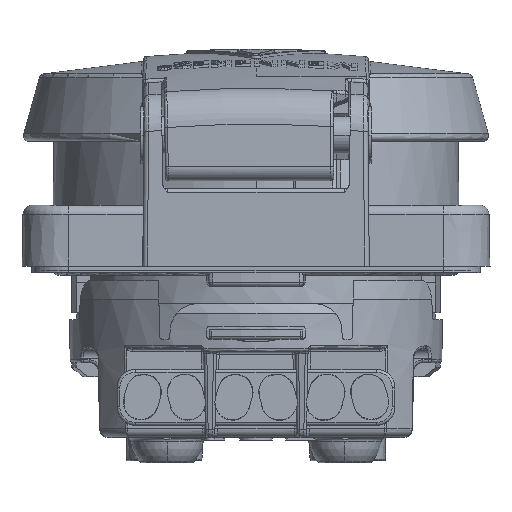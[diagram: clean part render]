
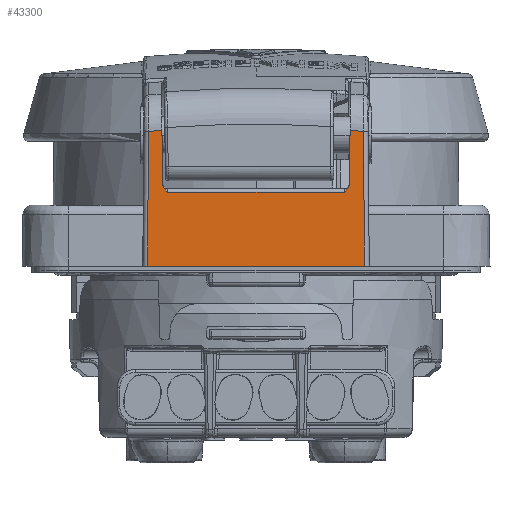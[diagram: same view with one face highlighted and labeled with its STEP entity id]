
A CAD part, left-side view. The second image highlights one B-rep face of the part: STEP entity #43300.
In plain terms, the highlighted planar face has unit normal (-1, 0, 0).
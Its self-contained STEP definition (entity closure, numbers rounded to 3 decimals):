
#1751=DIRECTION('',(0.,-1.,0.));
#1752=VECTOR('',#1751,23.2);
#1753=CARTESIAN_POINT('',(-36.,11.6,1.8));
#1754=LINE('5375',#1753,#1752);
#1978=CARTESIAN_POINT('',(-36.,9.951,10.47));
#1989=DIRECTION('',(0.,-0.017,-1.));
#1990=VECTOR('',#1989,5.83);
#1991=CARTESIAN_POINT('',(-36.,10.053,16.299));
#1992=LINE('5553',#1991,#1990);
#2143=CARTESIAN_POINT('',(-36.,-9.951,
10.47));
#2206=DIRECTION('',(0.,0.017,-1.));
#2207=VECTOR('',#2206,5.83);
#2208=CARTESIAN_POINT('',(-36.,-10.053,16.299));
#2209=LINE('5552',#2208,#2207);
#2255=CARTESIAN_POINT('',(-36.,-9.951,
10.47));
#2256=CARTESIAN_POINT('',(-36.,-9.95,
10.419));
#2257=CARTESIAN_POINT('',(-36.,-9.937,
10.317));
#2258=CARTESIAN_POINT('',(-36.,-9.875,
10.153));
#2259=CARTESIAN_POINT('',(-36.,-9.768,
9.989));
#2260=CARTESIAN_POINT('',(-36.,-9.619,
9.83));
#2261=CARTESIAN_POINT('',(-36.,-9.5,
9.726));
#2262=CARTESIAN_POINT('',(-36.,-9.437,
9.672));
#2267=CARTESIAN_POINT('',(-36.,9.437,9.672));
#2297=CARTESIAN_POINT('',(-36.,-9.437,
9.672));
#2302=DIRECTION('',(0.,1.,0.));
#2303=VECTOR('',#2302,18.875);
#2304=CARTESIAN_POINT('',(-36.,-9.437,
9.672));
#2305=LINE('5551',#2304,#2303);
#2309=CARTESIAN_POINT('',(-36.,9.437,9.672));
#2310=CARTESIAN_POINT('',(-36.,9.5,9.726));
#2311=CARTESIAN_POINT('',(-36.,9.618,9.829));
#2312=CARTESIAN_POINT('',(-36.,9.766,9.987));
#2313=CARTESIAN_POINT('',(-36.,9.874,10.151));
#2314=CARTESIAN_POINT('',(-36.,9.937,10.316));
#2315=CARTESIAN_POINT('',(-36.,9.95,10.419));
#2316=CARTESIAN_POINT('',(-36.,9.951,10.47));
#2413=CARTESIAN_POINT('',(-36.,-11.474,16.183));
#2414=CARTESIAN_POINT('',(-36.,-11.317,16.196));
#2415=CARTESIAN_POINT('',(-36.,-11.001,16.223));
#2416=CARTESIAN_POINT('',(-36.,-10.527,16.262));
#2417=CARTESIAN_POINT('',(-36.,-10.211,16.287));
#2418=CARTESIAN_POINT('',(-36.,-10.053,16.299));
#2433=CARTESIAN_POINT('',(-36.,-10.053,16.299));
#11977=DIRECTION('',(0.,-0.009,-1.));
#11978=VECTOR('',#11977,14.383);
#11979=CARTESIAN_POINT('',(-36.,-11.474,16.183));
#11980=LINE('5356',#11979,#11978);
#13913=DIRECTION('',(0.,-0.009,1.));
#13914=VECTOR('',#13913,14.383);
#13915=CARTESIAN_POINT('',(-36.,11.6,1.8));
#13916=LINE('5365',#13915,#13914);
#13996=CARTESIAN_POINT('',(-36.,10.053,16.299));
#14001=CARTESIAN_POINT('',(-36.,10.053,16.299));
#14002=CARTESIAN_POINT('',(-36.,10.211,16.287));
#14003=CARTESIAN_POINT('',(-36.,10.527,16.262));
#14004=CARTESIAN_POINT('',(-36.,11.001,16.223));
#14005=CARTESIAN_POINT('',(-36.,11.317,16.196));
#14006=CARTESIAN_POINT('',(-36.,11.474,16.183));
#36253=VERTEX_POINT('',#13996);
#36255=VERTEX_POINT('',#2433);
#36316=CARTESIAN_POINT('',(-36.,-11.474,16.183));
#36317=CARTESIAN_POINT('',(-36.,-11.6,1.8));
#36318=VERTEX_POINT('',#36316);
#36319=VERTEX_POINT('',#36317);
#36328=CARTESIAN_POINT('',(-36.,11.6,1.8));
#36329=CARTESIAN_POINT('',(-36.,11.474,16.183));
#36330=VERTEX_POINT('',#36328);
#36331=VERTEX_POINT('',#36329);
#36502=VERTEX_POINT('',#1978);
#36503=VERTEX_POINT('',#2267);
#36505=VERTEX_POINT('',#2297);
#36507=VERTEX_POINT('',#2143);
#43279=CARTESIAN_POINT('',(-36.,12.1,8.3));
#43280=DIRECTION('',(-1.,0.,0.));
#43281=DIRECTION('',(0.,-1.,0.));
#43282=AXIS2_PLACEMENT_3D('',#43279,#43280,#43281);
#43283=PLANE('3613',#43282);
#43284=ORIENTED_EDGE('5551',*,*,#43045,.F.);
#43285=ORIENTED_EDGE('5573',*,*,#43023,.F.);
#43286=ORIENTED_EDGE('5552',*,*,#42963,.F.);
#43288=ORIENTED_EDGE('5376',*,*,#43287,.F.);
#43290=ORIENTED_EDGE('5356',*,*,#43289,.T.);
#43291=ORIENTED_EDGE('5375',*,*,#42588,.F.);
#43293=ORIENTED_EDGE('5365',*,*,#43292,.T.);
#43295=ORIENTED_EDGE('5380',*,*,#43294,.F.);
#43296=ORIENTED_EDGE('5553',*,*,#42835,.T.);
#43297=ORIENTED_EDGE('5570',*,*,#43098,.F.);
#43298=EDGE_LOOP('3613',(#43284,#43285,#43286,#43288,#43290,#43291,#43293,
#43295,#43296,#43297));
#43299=FACE_OUTER_BOUND('3613',#43298,.F.);
#2263=B_SPLINE_CURVE_WITH_KNOTS('5573',3,(#2255,#2256,#2257,#2258,#2259,#2260,
#2261,#2262),.UNSPECIFIED.,.F.,.F.,(4,1,1,1,1,4),(0.,0.2,0.4,0.6,0.8,
1.),.UNSPECIFIED.);
#2317=B_SPLINE_CURVE_WITH_KNOTS('5570',3,(#2309,#2310,#2311,#2312,#2313,#2314,
#2315,#2316),.UNSPECIFIED.,.F.,.F.,(4,1,1,1,1,4),(0.,0.2,0.4,0.6,0.8,
1.),.UNSPECIFIED.);
#2419=B_SPLINE_CURVE_WITH_KNOTS('5376',3,(#2413,#2414,#2415,#2416,#2417,#2418),
.UNSPECIFIED.,.F.,.F.,(4,1,1,4),(0.,0.333,0.667,1.),
.UNSPECIFIED.);
#14007=B_SPLINE_CURVE_WITH_KNOTS('5380',3,(#14001,#14002,#14003,#14004,#14005,
#14006),.UNSPECIFIED.,.F.,.F.,(4,1,1,4),(0.,0.333,
0.667,1.),.UNSPECIFIED.);
#42588=EDGE_CURVE('5375',#36330,#36319,#1754,.T.);
#42835=EDGE_CURVE('5553',#36253,#36502,#1992,.T.);
#42963=EDGE_CURVE('5552',#36255,#36507,#2209,.T.);
#43023=EDGE_CURVE('5573',#36507,#36505,#2263,.T.);
#43045=EDGE_CURVE('5551',#36505,#36503,#2305,.T.);
#43098=EDGE_CURVE('5570',#36503,#36502,#2317,.T.);
#43287=EDGE_CURVE('5376',#36318,#36255,#2419,.T.);
#43289=EDGE_CURVE('5356',#36318,#36319,#11980,.T.);
#43292=EDGE_CURVE('5365',#36330,#36331,#13916,.T.);
#43294=EDGE_CURVE('5380',#36253,#36331,#14007,.T.);
#43300=ADVANCED_FACE('3613',(#43299),#43283,.T.);
